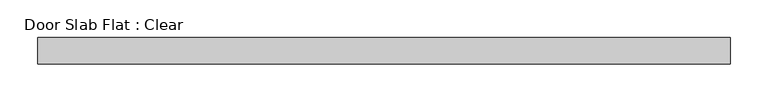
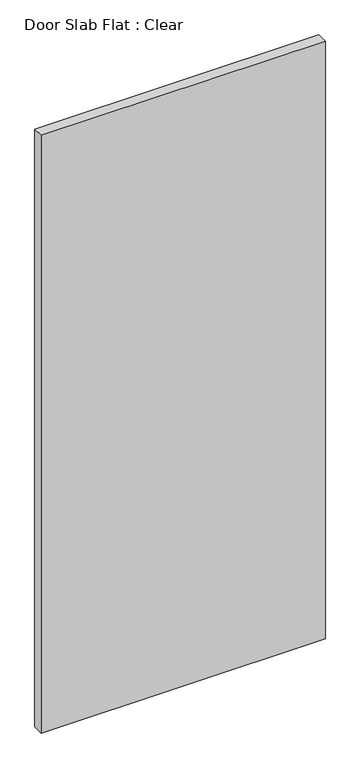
"""IFC4 building model written with IfcOpenShell, lengths in millimetres: proxy geometry, Door Slab Flat : Clear."""

from ifc_helpers import new_model, si_unit, origin, origin_with_axes, place, context, project, spatial, polyline, outline, extrude, source, transform, mapped, element, save


def door_slab_flat_clear_1391b3c5(model_context):
    return source(origin(), model_context, "Body", "SweptSolid", [
        extrude(outline(polyline([(457.2, 17.4625), (457.2, -17.4625), (-457.2, -17.4625), (-457.2, 17.4625), (457.2, 17.4625)])), origin_with_axes(), (0.0, 0.0, 1.0), 2032.0),
    ])


if __name__ == "__main__":
    model = new_model("IFC4")
    model_context = context("Model", 3, world=origin())
    ifc_project = project(units=[si_unit("LENGTHUNIT", "METRE", prefix="MILLI")], contexts=[model_context])
    site = spatial("IfcSite", under=ifc_project)
    building = spatial("IfcBuilding", under=site)
    placement = place(None, origin())
    door_slab_flat_clear_shape = door_slab_flat_clear_1391b3c5(model_context)
    element("IfcBuildingElementProxy", 1, Name="Door Slab Flat : Clear", ObjectType="Door Slab Flat : Clear", at=placement, inside=building, context=model_context, shape_type="MappedRepresentation", body=[
        mapped(door_slab_flat_clear_shape, transform((0.0, 0.0, 0.0), x_axis=(1.0, 0.0, 0.0), y_axis=(0.0, 1.0, 0.0), z_axis=(0.0, 0.0, 1.0))),
    ])
    save(model, "model.ifc")
